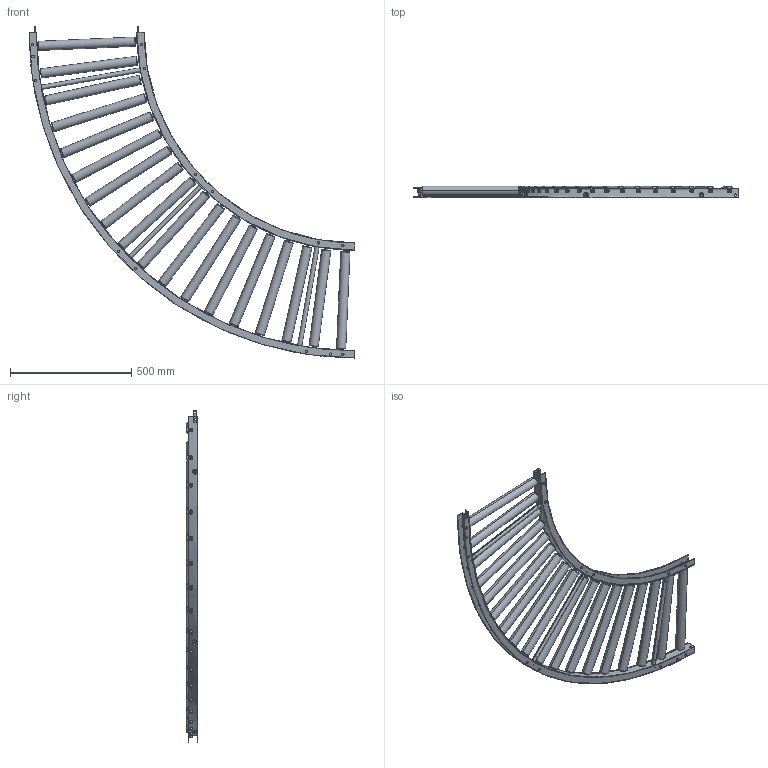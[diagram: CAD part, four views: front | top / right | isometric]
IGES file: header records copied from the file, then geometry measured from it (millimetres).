
Start section: SolidWorks IGES file using analytic representation for surfaces
Global section: file name: C:\Users\0656\Desktop\変換ツール\iges変換\R-3812PL.igs; native system: SolidWorks 2023; preprocessor: SolidWorks 2023; author: 0656; date: 240315.111755; units: millimetre
Bounding box: 1345 x 47.05 x 1370.08 mm (x, y, z)
Surface area: 2529645 mm2 (no closed solid volume)
Topology: 0 solids, 0 shells, 820 faces, 17092 edges, 17080 vertices
Faces by surface type: revolution 430, bspline 390
